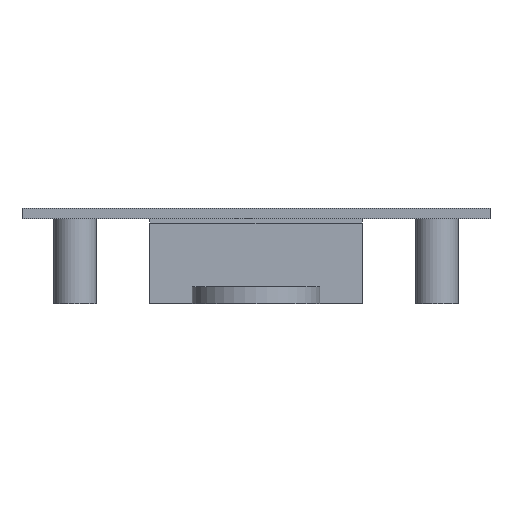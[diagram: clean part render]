
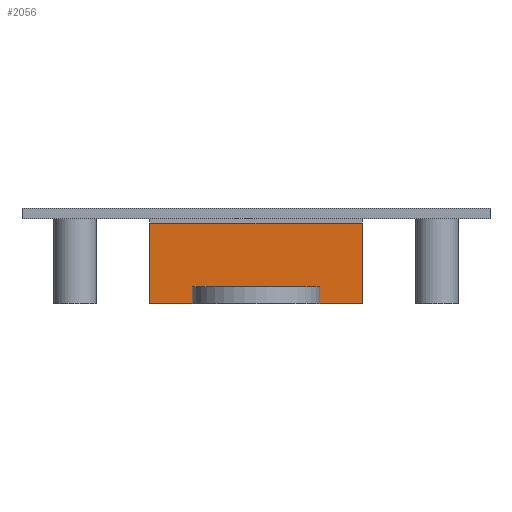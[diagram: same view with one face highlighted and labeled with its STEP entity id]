
A CAD part, front view. The second image highlights one B-rep face of the part: STEP entity #2056.
In plain terms, the highlighted planar face has unit normal (0, -1, 0).
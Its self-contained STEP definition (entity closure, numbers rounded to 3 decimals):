
#1940 = EDGE_CURVE('',#1941,#1943,#1945,.T.);
#1941 = VERTEX_POINT('',#1942);
#1942 = CARTESIAN_POINT('',(-50.,115.,0.));
#1943 = VERTEX_POINT('',#1944);
#1944 = CARTESIAN_POINT('',(-50.,115.,38.));
#1945 = SURFACE_CURVE('',#1946,(#1950,#1962),.PCURVE_S1.);
#1946 = LINE('',#1947,#1948);
#1947 = CARTESIAN_POINT('',(-50.,115.,0.));
#1948 = VECTOR('',#1949,1.);
#1949 = DIRECTION('',(0.,0.,1.));
#1950 = PCURVE('',#1951,#1956);
#1951 = PLANE('',#1952);
#1952 = AXIS2_PLACEMENT_3D('',#1953,#1954,#1955);
#1953 = CARTESIAN_POINT('',(-50.,115.,0.));
#1954 = DIRECTION('',(1.,0.,0.));
#1955 = DIRECTION('',(0.,0.,1.));
#1956 = DEFINITIONAL_REPRESENTATION('',(#1957),#1961);
#1957 = LINE('',#1958,#1959);
#1958 = CARTESIAN_POINT('',(0.,0.));
#1959 = VECTOR('',#1960,1.);
#1960 = DIRECTION('',(1.,0.));
#1961 = ( GEOMETRIC_REPRESENTATION_CONTEXT(2) 
PARAMETRIC_REPRESENTATION_CONTEXT() REPRESENTATION_CONTEXT('2D SPACE',''
  ) );
#1962 = PCURVE('',#1963,#1968);
#1963 = PLANE('',#1964);
#1964 = AXIS2_PLACEMENT_3D('',#1965,#1966,#1967);
#1965 = CARTESIAN_POINT('',(-50.,115.,0.));
#1966 = DIRECTION('',(0.,1.,0.));
#1967 = DIRECTION('',(0.,-0.,1.));
#1968 = DEFINITIONAL_REPRESENTATION('',(#1969),#1973);
#1969 = LINE('',#1970,#1971);
#1970 = CARTESIAN_POINT('',(0.,0.));
#1971 = VECTOR('',#1972,1.);
#1972 = DIRECTION('',(1.,0.));
#1973 = ( GEOMETRIC_REPRESENTATION_CONTEXT(2) 
PARAMETRIC_REPRESENTATION_CONTEXT() REPRESENTATION_CONTEXT('2D SPACE',''
  ) );
#1991 = PLANE('',#1992);
#1992 = AXIS2_PLACEMENT_3D('',#1993,#1994,#1995);
#1993 = CARTESIAN_POINT('',(-50.,115.,0.));
#1994 = DIRECTION('',(0.,0.,1.));
#1995 = DIRECTION('',(1.,0.,-0.));
#2045 = PLANE('',#2046);
#2046 = AXIS2_PLACEMENT_3D('',#2047,#2048,#2049);
#2047 = CARTESIAN_POINT('',(-50.,115.,38.));
#2048 = DIRECTION('',(0.,0.,1.));
#2049 = DIRECTION('',(1.,0.,-0.));
#2056 = ADVANCED_FACE('',(#2057),#1963,.F.);
#2057 = FACE_BOUND('',#2058,.F.);
#2058 = EDGE_LOOP('',(#2059,#2082,#2083,#2106));
#2059 = ORIENTED_EDGE('',*,*,#2060,.F.);
#2060 = EDGE_CURVE('',#1941,#2061,#2063,.T.);
#2061 = VERTEX_POINT('',#2062);
#2062 = CARTESIAN_POINT('',(50.,115.,0.));
#2063 = SURFACE_CURVE('',#2064,(#2068,#2075),.PCURVE_S1.);
#2064 = LINE('',#2065,#2066);
#2065 = CARTESIAN_POINT('',(-50.,115.,0.));
#2066 = VECTOR('',#2067,1.);
#2067 = DIRECTION('',(1.,0.,0.));
#2068 = PCURVE('',#1963,#2069);
#2069 = DEFINITIONAL_REPRESENTATION('',(#2070),#2074);
#2070 = LINE('',#2071,#2072);
#2071 = CARTESIAN_POINT('',(0.,0.));
#2072 = VECTOR('',#2073,1.);
#2073 = DIRECTION('',(0.,1.));
#2074 = ( GEOMETRIC_REPRESENTATION_CONTEXT(2) 
PARAMETRIC_REPRESENTATION_CONTEXT() REPRESENTATION_CONTEXT('2D SPACE',''
  ) );
#2075 = PCURVE('',#1991,#2076);
#2076 = DEFINITIONAL_REPRESENTATION('',(#2077),#2081);
#2077 = LINE('',#2078,#2079);
#2078 = CARTESIAN_POINT('',(0.,0.));
#2079 = VECTOR('',#2080,1.);
#2080 = DIRECTION('',(1.,0.));
#2081 = ( GEOMETRIC_REPRESENTATION_CONTEXT(2) 
PARAMETRIC_REPRESENTATION_CONTEXT() REPRESENTATION_CONTEXT('2D SPACE',''
  ) );
#2082 = ORIENTED_EDGE('',*,*,#1940,.T.);
#2083 = ORIENTED_EDGE('',*,*,#2084,.T.);
#2084 = EDGE_CURVE('',#1943,#2085,#2087,.T.);
#2085 = VERTEX_POINT('',#2086);
#2086 = CARTESIAN_POINT('',(50.,115.,38.));
#2087 = SURFACE_CURVE('',#2088,(#2092,#2099),.PCURVE_S1.);
#2088 = LINE('',#2089,#2090);
#2089 = CARTESIAN_POINT('',(-50.,115.,38.));
#2090 = VECTOR('',#2091,1.);
#2091 = DIRECTION('',(1.,0.,0.));
#2092 = PCURVE('',#1963,#2093);
#2093 = DEFINITIONAL_REPRESENTATION('',(#2094),#2098);
#2094 = LINE('',#2095,#2096);
#2095 = CARTESIAN_POINT('',(38.,0.));
#2096 = VECTOR('',#2097,1.);
#2097 = DIRECTION('',(0.,1.));
#2098 = ( GEOMETRIC_REPRESENTATION_CONTEXT(2) 
PARAMETRIC_REPRESENTATION_CONTEXT() REPRESENTATION_CONTEXT('2D SPACE',''
  ) );
#2099 = PCURVE('',#2045,#2100);
#2100 = DEFINITIONAL_REPRESENTATION('',(#2101),#2105);
#2101 = LINE('',#2102,#2103);
#2102 = CARTESIAN_POINT('',(0.,0.));
#2103 = VECTOR('',#2104,1.);
#2104 = DIRECTION('',(1.,0.));
#2105 = ( GEOMETRIC_REPRESENTATION_CONTEXT(2) 
PARAMETRIC_REPRESENTATION_CONTEXT() REPRESENTATION_CONTEXT('2D SPACE',''
  ) );
#2106 = ORIENTED_EDGE('',*,*,#2107,.F.);
#2107 = EDGE_CURVE('',#2061,#2085,#2108,.T.);
#2108 = SURFACE_CURVE('',#2109,(#2113,#2120),.PCURVE_S1.);
#2109 = LINE('',#2110,#2111);
#2110 = CARTESIAN_POINT('',(50.,115.,0.));
#2111 = VECTOR('',#2112,1.);
#2112 = DIRECTION('',(0.,0.,1.));
#2113 = PCURVE('',#1963,#2114);
#2114 = DEFINITIONAL_REPRESENTATION('',(#2115),#2119);
#2115 = LINE('',#2116,#2117);
#2116 = CARTESIAN_POINT('',(0.,100.));
#2117 = VECTOR('',#2118,1.);
#2118 = DIRECTION('',(1.,0.));
#2119 = ( GEOMETRIC_REPRESENTATION_CONTEXT(2) 
PARAMETRIC_REPRESENTATION_CONTEXT() REPRESENTATION_CONTEXT('2D SPACE',''
  ) );
#2120 = PCURVE('',#2121,#2126);
#2121 = PLANE('',#2122);
#2122 = AXIS2_PLACEMENT_3D('',#2123,#2124,#2125);
#2123 = CARTESIAN_POINT('',(50.,115.,0.));
#2124 = DIRECTION('',(1.,0.,0.));
#2125 = DIRECTION('',(0.,0.,1.));
#2126 = DEFINITIONAL_REPRESENTATION('',(#2127),#2131);
#2127 = LINE('',#2128,#2129);
#2128 = CARTESIAN_POINT('',(0.,0.));
#2129 = VECTOR('',#2130,1.);
#2130 = DIRECTION('',(1.,0.));
#2131 = ( GEOMETRIC_REPRESENTATION_CONTEXT(2) 
PARAMETRIC_REPRESENTATION_CONTEXT() REPRESENTATION_CONTEXT('2D SPACE',''
  ) );
